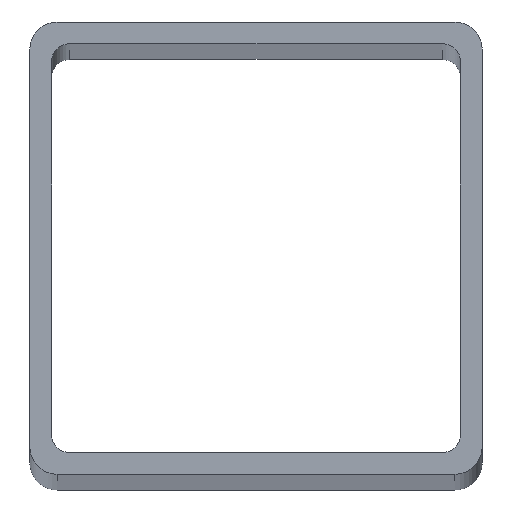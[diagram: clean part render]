
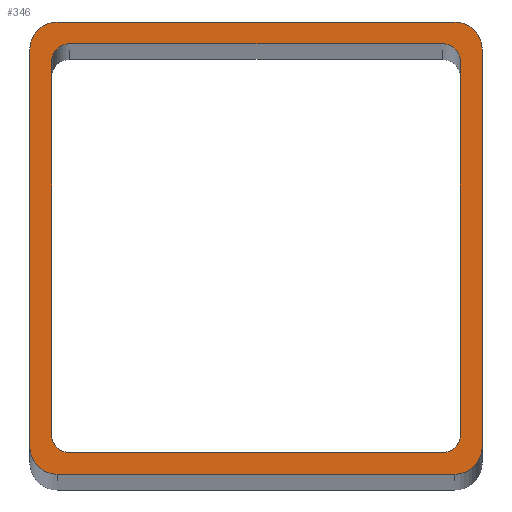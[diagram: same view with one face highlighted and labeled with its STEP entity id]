
A CAD part, top view. The second image highlights one B-rep face of the part: STEP entity #346.
In plain terms, the highlighted planar face has unit normal (0, 0, 1).
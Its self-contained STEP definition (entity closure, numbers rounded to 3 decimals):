
#2 = VERTEX_POINT ( 'NONE', #100 ) ;
#5 = CARTESIAN_POINT ( 'NONE',  ( 11., 11., 250. ) ) ;
#8 = EDGE_CURVE ( 'NONE', #28, #272, #446, .T. ) ;
#11 = CARTESIAN_POINT ( 'NONE',  ( -11., 12.5, 250. ) ) ;
#15 = ORIENTED_EDGE ( 'NONE', *, *, #325, .F. ) ;
#28 = VERTEX_POINT ( 'NONE', #11 ) ;
#30 = DIRECTION ( 'NONE',  ( 0., 0., -1. ) ) ;
#32 = ORIENTED_EDGE ( 'NONE', *, *, #489, .T. ) ;
#33 = DIRECTION ( 'NONE',  ( 1., 0., 0. ) ) ;
#34 = CARTESIAN_POINT ( 'NONE',  ( -12.5, -11.3, 250. ) ) ;
#39 = CARTESIAN_POINT ( 'NONE',  ( 10.3, 10.3, 250. ) ) ;
#40 = CARTESIAN_POINT ( 'NONE',  ( 11.3, -10.3, 250. ) ) ;
#42 = DIRECTION ( 'NONE',  ( 1., 0., 0. ) ) ;
#45 = EDGE_LOOP ( 'NONE', ( #291, #51, #126, #257, #32, #113, #391, #203 ) ) ;
#46 = LINE ( 'NONE', #596, #88 ) ;
#50 = AXIS2_PLACEMENT_3D ( 'NONE', #130, #283, #554 ) ;
#51 = ORIENTED_EDGE ( 'NONE', *, *, #527, .T. ) ;
#54 = CARTESIAN_POINT ( 'NONE',  ( -10.3, 11.3, 250. ) ) ;
#61 = AXIS2_PLACEMENT_3D ( 'NONE', #317, #495, #369 ) ;
#67 = VERTEX_POINT ( 'NONE', #526 ) ;
#72 = CARTESIAN_POINT ( 'NONE',  ( 11., -12.5, 250. ) ) ;
#75 = EDGE_CURVE ( 'NONE', #331, #245, #263, .T. ) ;
#76 = CARTESIAN_POINT ( 'NONE',  ( 12.5, 11., 250. ) ) ;
#81 = CARTESIAN_POINT ( 'NONE',  ( -12.5, 11.3, 250. ) ) ;
#87 = AXIS2_PLACEMENT_3D ( 'NONE', #110, #246, #426 ) ;
#88 = VECTOR ( 'NONE', #546, 1000. ) ;
#96 = CARTESIAN_POINT ( 'NONE',  ( -11.3, -10.3, 250. ) ) ;
#98 = EDGE_CURVE ( 'NONE', #272, #178, #422, .T. ) ;
#100 = CARTESIAN_POINT ( 'NONE',  ( -11., -12.5, 250. ) ) ;
#102 = DIRECTION ( 'NONE',  ( 0., 0., 1. ) ) ;
#110 = CARTESIAN_POINT ( 'NONE',  ( -11., 11., 250. ) ) ;
#111 = VECTOR ( 'NONE', #544, 1000. ) ;
#113 = ORIENTED_EDGE ( 'NONE', *, *, #8, .T. ) ;
#117 = AXIS2_PLACEMENT_3D ( 'NONE', #488, #267, #183 ) ;
#126 = ORIENTED_EDGE ( 'NONE', *, *, #573, .T. ) ;
#130 = CARTESIAN_POINT ( 'NONE',  ( 11., -11., 250. ) ) ;
#132 = EDGE_LOOP ( 'NONE', ( #15, #237, #424, #297, #268, #371, #314, #524 ) ) ;
#140 = DIRECTION ( 'NONE',  ( 1., 0., 0. ) ) ;
#142 = CARTESIAN_POINT ( 'NONE',  ( 12.5, 12.5, 250. ) ) ;
#145 = VERTEX_POINT ( 'NONE', #253 ) ;
#146 = DIRECTION ( 'NONE',  ( 0., 0., -1. ) ) ;
#173 = CIRCLE ( 'NONE', #427, 1. ) ;
#175 = LINE ( 'NONE', #81, #276 ) ;
#178 = VERTEX_POINT ( 'NONE', #393 ) ;
#183 = DIRECTION ( 'NONE',  ( 1., 0., 0. ) ) ;
#189 = CARTESIAN_POINT ( 'NONE',  ( 12.5, -11., 250. ) ) ;
#190 = CARTESIAN_POINT ( 'NONE',  ( -10.3, -11.3, 250. ) ) ;
#191 = VERTEX_POINT ( 'NONE', #72 ) ;
#203 = ORIENTED_EDGE ( 'NONE', *, *, #306, .T. ) ;
#220 = DIRECTION ( 'NONE',  ( -1., 0., 0. ) ) ;
#228 = FACE_BOUND ( 'NONE', #132, .T. ) ;
#237 = ORIENTED_EDGE ( 'NONE', *, *, #540, .T. ) ;
#245 = VERTEX_POINT ( 'NONE', #412 ) ;
#246 = DIRECTION ( 'NONE',  ( 0., 0., 1. ) ) ;
#253 = CARTESIAN_POINT ( 'NONE',  ( -11.3, 10.3, 250. ) ) ;
#254 = EDGE_CURVE ( 'NONE', #2, #191, #547, .T. ) ;
#257 = ORIENTED_EDGE ( 'NONE', *, *, #419, .T. ) ;
#261 = EDGE_CURVE ( 'NONE', #331, #288, #275, .T. ) ;
#263 = CIRCLE ( 'NONE', #602, 1. ) ;
#264 = CIRCLE ( 'NONE', #61, 1. ) ;
#265 = CARTESIAN_POINT ( 'NONE',  ( 11.3, 12.5, 250. ) ) ;
#267 = DIRECTION ( 'NONE',  ( 0., 0., 1. ) ) ;
#268 = ORIENTED_EDGE ( 'NONE', *, *, #477, .F. ) ;
#272 = VERTEX_POINT ( 'NONE', #452 ) ;
#275 = LINE ( 'NONE', #265, #111 ) ;
#276 = VECTOR ( 'NONE', #220, 1000. ) ;
#282 = VERTEX_POINT ( 'NONE', #358 ) ;
#283 = DIRECTION ( 'NONE',  ( 0., 0., 1. ) ) ;
#285 = VERTEX_POINT ( 'NONE', #76 ) ;
#288 = VERTEX_POINT ( 'NONE', #441 ) ;
#289 = DIRECTION ( 'NONE',  ( 0., -1., 0. ) ) ;
#291 = ORIENTED_EDGE ( 'NONE', *, *, #254, .T. ) ;
#297 = ORIENTED_EDGE ( 'NONE', *, *, #522, .T. ) ;
#304 = CIRCLE ( 'NONE', #406, 1.5 ) ;
#305 = CIRCLE ( 'NONE', #513, 1.5 ) ;
#306 = EDGE_CURVE ( 'NONE', #178, #2, #304, .T. ) ;
#310 = VECTOR ( 'NONE', #444, 1000. ) ;
#311 = AXIS2_PLACEMENT_3D ( 'NONE', #326, #443, #33 ) ;
#313 = PLANE ( 'NONE',  #117 ) ;
#314 = ORIENTED_EDGE ( 'NONE', *, *, #261, .F. ) ;
#317 = CARTESIAN_POINT ( 'NONE',  ( -10.3, -10.3, 250. ) ) ;
#318 = DIRECTION ( 'NONE',  ( 0., 0., 1. ) ) ;
#322 = CARTESIAN_POINT ( 'NONE',  ( -11., -11., 250. ) ) ;
#325 = EDGE_CURVE ( 'NONE', #359, #245, #536, .T. ) ;
#326 = CARTESIAN_POINT ( 'NONE',  ( -10.3, 10.3, 250. ) ) ;
#329 = DIRECTION ( 'NONE',  ( 0., 1., 0. ) ) ;
#331 = VERTEX_POINT ( 'NONE', #40 ) ;
#346 = ADVANCED_FACE ( 'NONE', ( #455, #228 ), #313, .T. ) ;
#353 = VECTOR ( 'NONE', #550, 1000. ) ;
#358 = CARTESIAN_POINT ( 'NONE',  ( 10.3, 11.3, 250. ) ) ;
#359 = VERTEX_POINT ( 'NONE', #190 ) ;
#361 = LINE ( 'NONE', #543, #353 ) ;
#363 = CARTESIAN_POINT ( 'NONE',  ( -12.5, -12.5, 250. ) ) ;
#369 = DIRECTION ( 'NONE',  ( 1., 0., 0. ) ) ;
#371 = ORIENTED_EDGE ( 'NONE', *, *, #500, .T. ) ;
#384 = VECTOR ( 'NONE', #140, 1000. ) ;
#391 = ORIENTED_EDGE ( 'NONE', *, *, #98, .T. ) ;
#393 = CARTESIAN_POINT ( 'NONE',  ( -12.5, -11., 250. ) ) ;
#399 = VECTOR ( 'NONE', #329, 1000. ) ;
#406 = AXIS2_PLACEMENT_3D ( 'NONE', #322, #318, #552 ) ;
#412 = CARTESIAN_POINT ( 'NONE',  ( 10.3, -11.3, 250. ) ) ;
#419 = EDGE_CURVE ( 'NONE', #285, #67, #305, .T. ) ;
#422 = LINE ( 'NONE', #511, #498 ) ;
#424 = ORIENTED_EDGE ( 'NONE', *, *, #583, .F. ) ;
#425 = VERTEX_POINT ( 'NONE', #54 ) ;
#426 = DIRECTION ( 'NONE',  ( 1., 0., 0. ) ) ;
#427 = AXIS2_PLACEMENT_3D ( 'NONE', #39, #30, #42 ) ;
#441 = CARTESIAN_POINT ( 'NONE',  ( 11.3, 10.3, 250. ) ) ;
#443 = DIRECTION ( 'NONE',  ( 0., 0., -1. ) ) ;
#444 = DIRECTION ( 'NONE',  ( 1., 0., 0. ) ) ;
#446 = CIRCLE ( 'NONE', #87, 1.5 ) ;
#452 = CARTESIAN_POINT ( 'NONE',  ( -12.5, 11., 250. ) ) ;
#453 = VERTEX_POINT ( 'NONE', #96 ) ;
#455 = FACE_OUTER_BOUND ( 'NONE', #45, .T. ) ;
#465 = DIRECTION ( 'NONE',  ( 1., 0., 0. ) ) ;
#467 = CARTESIAN_POINT ( 'NONE',  ( 10.3, -10.3, 250. ) ) ;
#477 = EDGE_CURVE ( 'NONE', #282, #425, #175, .T. ) ;
#480 = CIRCLE ( 'NONE', #50, 1.5 ) ;
#488 = CARTESIAN_POINT ( 'NONE',  ( -12.5, -12.5, 250. ) ) ;
#489 = EDGE_CURVE ( 'NONE', #67, #28, #361, .T. ) ;
#490 = VERTEX_POINT ( 'NONE', #189 ) ;
#495 = DIRECTION ( 'NONE',  ( 0., 0., -1. ) ) ;
#498 = VECTOR ( 'NONE', #289, 1000. ) ;
#500 = EDGE_CURVE ( 'NONE', #282, #288, #173, .T. ) ;
#504 = LINE ( 'NONE', #142, #399 ) ;
#511 = CARTESIAN_POINT ( 'NONE',  ( -12.5, 12.5, 250. ) ) ;
#513 = AXIS2_PLACEMENT_3D ( 'NONE', #5, #102, #465 ) ;
#522 = EDGE_CURVE ( 'NONE', #145, #425, #564, .T. ) ;
#524 = ORIENTED_EDGE ( 'NONE', *, *, #75, .T. ) ;
#526 = CARTESIAN_POINT ( 'NONE',  ( 11., 12.5, 250. ) ) ;
#527 = EDGE_CURVE ( 'NONE', #191, #490, #480, .T. ) ;
#536 = LINE ( 'NONE', #34, #384 ) ;
#540 = EDGE_CURVE ( 'NONE', #359, #453, #264, .T. ) ;
#543 = CARTESIAN_POINT ( 'NONE',  ( -12.5, 12.5, 250. ) ) ;
#544 = DIRECTION ( 'NONE',  ( 0., 1., 0. ) ) ;
#546 = DIRECTION ( 'NONE',  ( 0., -1., 0. ) ) ;
#547 = LINE ( 'NONE', #363, #310 ) ;
#550 = DIRECTION ( 'NONE',  ( -1., 0., 0. ) ) ;
#552 = DIRECTION ( 'NONE',  ( 1., 0., 0. ) ) ;
#554 = DIRECTION ( 'NONE',  ( 1., 0., 0. ) ) ;
#564 = CIRCLE ( 'NONE', #311, 1. ) ;
#568 = DIRECTION ( 'NONE',  ( 1., 0., 0. ) ) ;
#573 = EDGE_CURVE ( 'NONE', #490, #285, #504, .T. ) ;
#583 = EDGE_CURVE ( 'NONE', #145, #453, #46, .T. ) ;
#596 = CARTESIAN_POINT ( 'NONE',  ( -11.3, 12.5, 250. ) ) ;
#602 = AXIS2_PLACEMENT_3D ( 'NONE', #467, #146, #568 ) ;
